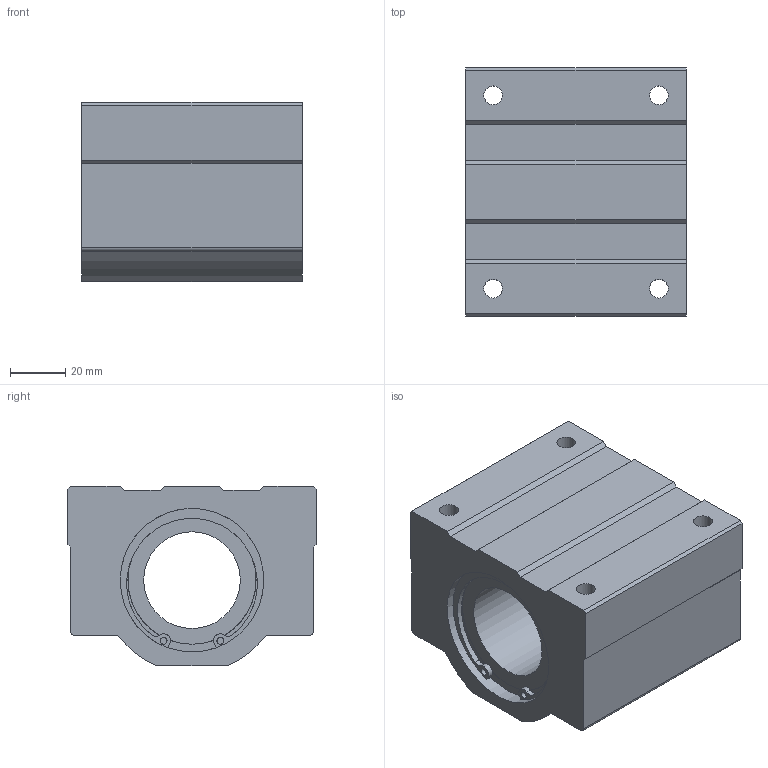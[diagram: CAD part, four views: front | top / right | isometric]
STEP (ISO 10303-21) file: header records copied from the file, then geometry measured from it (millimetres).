
FILE_DESCRIPTION((''),'2;1');
FILE_NAME('D:\製品 (図面)\カタログ用3D\リニアベアリング関連(改)\STEP形式\LH-B\LH35B.stp','2010-01-25T10:21:36',('Tsuchiya'),(''),'Autodesk Inventor 10','Autodesk Inventor 10','');
FILE_SCHEMA(('AUTOMOTIVE_DESIGN { 1 0 10303 214 1 1 1 1 }'));
Length unit declared in the file: millimetre
Products named in the file (1): LH35B
Bounding box: 80 x 90 x 65 mm (x, y, z)
Volume: 321009.5 mm3; surface area: 48226.4 mm2
Topology: 1 solids, 3 shells, 81 faces, 215 edges, 138 vertices
Faces by surface type: plane 44, cylinder 20, bspline 17
Full cylindrical faces by diameter (mm): 2.5 x2, 35 x1, 46.4 x2, 49 x2, 52 x4
Entity records: 2552 total; most frequent: CARTESIAN_POINT 599, DIRECTION 414, ORIENTED_EDGE 372, EDGE_CURVE 186, AXIS2_PLACEMENT_3D 163, VERTEX_POINT 126, EDGE_LOOP 118, CIRCLE 98
